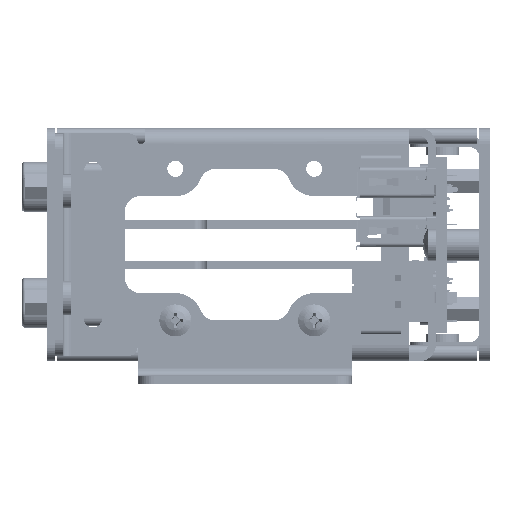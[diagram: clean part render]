
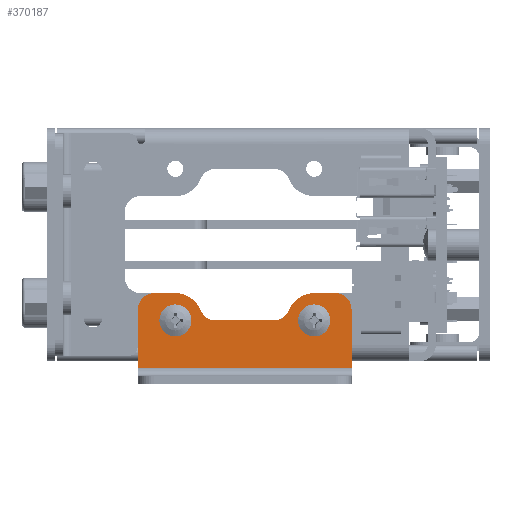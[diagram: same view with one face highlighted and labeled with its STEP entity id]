
A CAD part, left-side view. The second image highlights one B-rep face of the part: STEP entity #370187.
In plain terms, the highlighted planar face has unit normal (-1, 0, 0) as drawn and (0, 0, 1) by its records, which use the part's own axes.
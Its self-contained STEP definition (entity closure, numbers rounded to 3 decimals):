
#369684=CARTESIAN_POINT('',(13.,3.39,1.5));
#369685=DIRECTION('',(0.,0.,1.));
#369686=DIRECTION('',(-1.,0.,0.));
#369687=AXIS2_PLACEMENT_3D('',#369684,#369685,#369686);
#369689=CARTESIAN_POINT('',(13.,3.39,1.5));
#369690=DIRECTION('',(0.,0.,1.));
#369691=DIRECTION('',(1.,0.,0.));
#369692=AXIS2_PLACEMENT_3D('',#369689,#369690,#369691);
#369694=CARTESIAN_POINT('',(-13.,3.39,1.5));
#369695=DIRECTION('',(0.,0.,1.));
#369696=DIRECTION('',(-1.,0.,0.));
#369697=AXIS2_PLACEMENT_3D('',#369694,#369695,#369696);
#369699=CARTESIAN_POINT('',(-13.,3.39,1.5));
#369700=DIRECTION('',(0.,0.,1.));
#369701=DIRECTION('',(1.,0.,0.));
#369702=AXIS2_PLACEMENT_3D('',#369699,#369700,#369701);
#369704=CARTESIAN_POINT('',(-17.,5.5,1.5));
#369705=DIRECTION('',(0.,0.,1.));
#369706=DIRECTION('',(0.,1.,0.));
#369707=AXIS2_PLACEMENT_3D('',#369704,#369705,#369706);
#369709=DIRECTION('',(-1.,0.,0.));
#369710=VECTOR('',#369709,4.005);
#369711=CARTESIAN_POINT('',(-12.995,8.5,1.5));
#369712=LINE('',#369711,#369710);
#369713=CARTESIAN_POINT('',(-12.995,3.39,1.5));
#369714=DIRECTION('',(0.,0.,1.));
#369715=DIRECTION('',(0.929,0.37,0.));
#369716=AXIS2_PLACEMENT_3D('',#369713,#369714,#369715);
#369718=CARTESIAN_POINT('',(-5.46,6.39,1.5));
#369719=DIRECTION('',(0.,0.,1.));
#369720=DIRECTION('',(-0.929,-0.37,0.));
#369721=AXIS2_PLACEMENT_3D('',#369718,#369719,#369720);
#369723=DIRECTION('',(-1.,0.,0.));
#369724=VECTOR('',#369723,10.93);
#369725=CARTESIAN_POINT('',(5.47,3.39,1.5));
#369726=LINE('',#369725,#369724);
#369727=CARTESIAN_POINT('',(5.47,6.39,1.5));
#369728=DIRECTION('',(0.,0.,1.));
#369729=DIRECTION('',(0.,-1.,0.));
#369730=AXIS2_PLACEMENT_3D('',#369727,#369728,#369729);
#369732=CARTESIAN_POINT('',(13.005,3.39,1.5));
#369733=DIRECTION('',(0.,0.,1.));
#369734=DIRECTION('',(0.,1.,0.));
#369735=AXIS2_PLACEMENT_3D('',#369732,#369733,#369734);
#369737=DIRECTION('',(-1.,0.,0.));
#369738=VECTOR('',#369737,3.995);
#369739=CARTESIAN_POINT('',(17.,8.5,1.5));
#369740=LINE('',#369739,#369738);
#369741=CARTESIAN_POINT('',(17.,5.5,1.5));
#369742=DIRECTION('',(0.,0.,1.));
#369743=DIRECTION('',(1.,0.,0.));
#369744=AXIS2_PLACEMENT_3D('',#369741,#369742,#369743);
#369746=DIRECTION('',(0.,1.,0.));
#369747=VECTOR('',#369746,11.);
#369748=CARTESIAN_POINT('',(20.,-5.5,1.5));
#369749=LINE('',#369748,#369747);
#369750=DIRECTION('',(0.,-1.,0.));
#369751=VECTOR('',#369750,11.);
#369752=CARTESIAN_POINT('',(-20.,5.5,1.5));
#369753=LINE('',#369752,#369751);
#369838=DIRECTION('',(1.,0.,0.));
#369839=VECTOR('',#369838,40.);
#369840=CARTESIAN_POINT('',(-20.,-5.5,1.5));
#369841=LINE('',#369840,#369839);
#369978=CARTESIAN_POINT('',(-20.,-5.5,1.5));
#369980=VERTEX_POINT('',#369978);
#369982=CARTESIAN_POINT('',(20.,-5.5,1.5));
#369984=VERTEX_POINT('',#369982);
#369994=CARTESIAN_POINT('',(-14.7,3.39,1.5));
#369995=CARTESIAN_POINT('',(-11.3,3.39,1.5));
#369996=VERTEX_POINT('',#369994);
#369997=VERTEX_POINT('',#369995);
#369998=CARTESIAN_POINT('',(11.3,3.39,1.5));
#369999=CARTESIAN_POINT('',(14.7,3.39,1.5));
#370000=VERTEX_POINT('',#369998);
#370001=VERTEX_POINT('',#369999);
#370022=CARTESIAN_POINT('',(-17.,8.5,1.5));
#370023=VERTEX_POINT('',#370022);
#370024=CARTESIAN_POINT('',(-20.,5.5,1.5));
#370025=VERTEX_POINT('',#370024);
#370046=CARTESIAN_POINT('',(20.,5.5,1.5));
#370047=VERTEX_POINT('',#370046);
#370048=CARTESIAN_POINT('',(17.,8.5,1.5));
#370049=VERTEX_POINT('',#370048);
#370051=CARTESIAN_POINT('',(-12.995,8.5,1.5));
#370053=VERTEX_POINT('',#370051);
#370056=CARTESIAN_POINT('',(13.005,8.5,1.5));
#370057=VERTEX_POINT('',#370056);
#370066=CARTESIAN_POINT('',(-8.247,5.28,1.5));
#370067=VERTEX_POINT('',#370066);
#370068=CARTESIAN_POINT('',(8.257,5.28,1.5));
#370069=VERTEX_POINT('',#370068);
#370070=CARTESIAN_POINT('',(5.47,3.39,1.5));
#370071=VERTEX_POINT('',#370070);
#370072=CARTESIAN_POINT('',(-5.46,3.39,1.5));
#370073=VERTEX_POINT('',#370072);
#370146=CARTESIAN_POINT('',(0.,0.,1.5));
#370147=DIRECTION('',(0.,0.,1.));
#370148=DIRECTION('',(1.,0.,0.));
#370149=AXIS2_PLACEMENT_3D('',#370146,#370147,#370148);
#370150=PLANE('',#370149);
#370152=ORIENTED_EDGE('',*,*,#370151,.F.);
#370154=ORIENTED_EDGE('',*,*,#370153,.F.);
#370156=ORIENTED_EDGE('',*,*,#370155,.F.);
#370158=ORIENTED_EDGE('',*,*,#370157,.T.);
#370160=ORIENTED_EDGE('',*,*,#370159,.F.);
#370162=ORIENTED_EDGE('',*,*,#370161,.T.);
#370164=ORIENTED_EDGE('',*,*,#370163,.F.);
#370166=ORIENTED_EDGE('',*,*,#370165,.F.);
#370168=ORIENTED_EDGE('',*,*,#370167,.F.);
#370170=ORIENTED_EDGE('',*,*,#370169,.F.);
#370172=ORIENTED_EDGE('',*,*,#370171,.F.);
#370174=ORIENTED_EDGE('',*,*,#370173,.F.);
#370175=EDGE_LOOP('',(#370152,#370154,#370156,#370158,#370160,#370162,#370164,
#370166,#370168,#370170,#370172,#370174));
#370176=FACE_OUTER_BOUND('',#370175,.F.);
#370177=ORIENTED_EDGE('',*,*,#370126,.T.);
#370178=ORIENTED_EDGE('',*,*,#370140,.T.);
#370179=EDGE_LOOP('',(#370177,#370178));
#370180=FACE_BOUND('',#370179,.F.);
#370182=ORIENTED_EDGE('',*,*,#370181,.T.);
#370184=ORIENTED_EDGE('',*,*,#370183,.T.);
#370185=EDGE_LOOP('',(#370182,#370184));
#370186=FACE_BOUND('',#370185,.F.);
#369688=CIRCLE('',#369687,1.7);
#369693=CIRCLE('',#369692,1.7);
#369698=CIRCLE('',#369697,1.7);
#369703=CIRCLE('',#369702,1.7);
#369708=CIRCLE('',#369707,3.);
#369717=CIRCLE('',#369716,5.11);
#369722=CIRCLE('',#369721,3.);
#369731=CIRCLE('',#369730,3.);
#369736=CIRCLE('',#369735,5.11);
#369745=CIRCLE('',#369744,3.);
#370126=EDGE_CURVE('',#369996,#369997,#369698,.T.);
#370140=EDGE_CURVE('',#369997,#369996,#369703,.T.);
#370151=EDGE_CURVE('',#370023,#370025,#369708,.T.);
#370153=EDGE_CURVE('',#370053,#370023,#369712,.T.);
#370155=EDGE_CURVE('',#370067,#370053,#369717,.T.);
#370157=EDGE_CURVE('',#370067,#370073,#369722,.T.);
#370159=EDGE_CURVE('',#370071,#370073,#369726,.T.);
#370161=EDGE_CURVE('',#370071,#370069,#369731,.T.);
#370163=EDGE_CURVE('',#370057,#370069,#369736,.T.);
#370165=EDGE_CURVE('',#370049,#370057,#369740,.T.);
#370167=EDGE_CURVE('',#370047,#370049,#369745,.T.);
#370169=EDGE_CURVE('',#369984,#370047,#369749,.T.);
#370171=EDGE_CURVE('',#369980,#369984,#369841,.T.);
#370173=EDGE_CURVE('',#370025,#369980,#369753,.T.);
#370181=EDGE_CURVE('',#370000,#370001,#369688,.T.);
#370183=EDGE_CURVE('',#370001,#370000,#369693,.T.);
#370187=ADVANCED_FACE('',(#370176,#370180,#370186),#370150,.T.);
